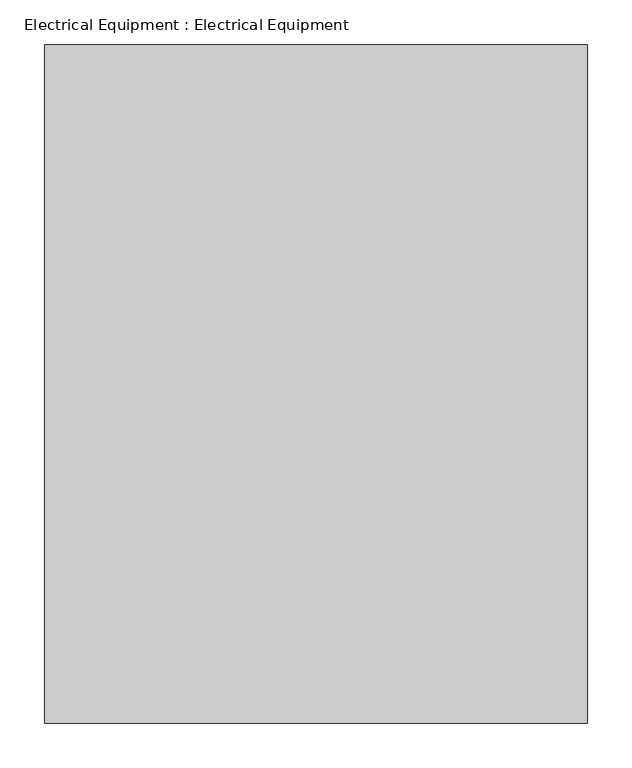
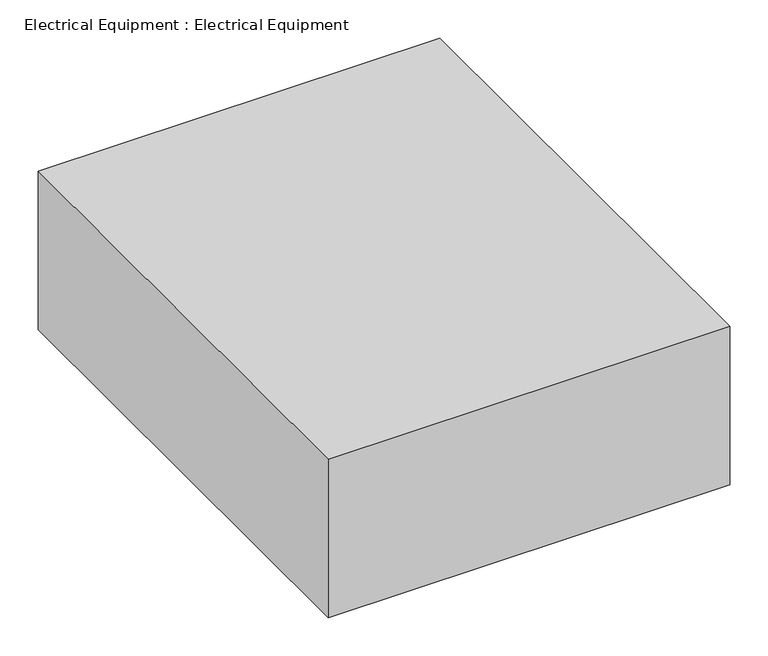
"""IFC4 building model written with IfcOpenShell, lengths in millimetres: proxy geometry, Electrical Equipment : Electrical Equipment."""

from ifc_helpers import new_model, si_unit, origin, origin_with_axes, place, context, project, spatial, polyline, outline, extrude, source, transform, mapped, element, save


def electrical_equipment_electrical_equipment_f90e0472(model_context):
    return source(origin(), model_context, "Body", "SweptSolid", [
        extrude(outline(polyline([(304.8, 381.0), (304.8, -381.0), (-304.8, -381.0), (-304.8, 381.0), (304.8, 381.0)])), origin_with_axes(), (0.0, 0.0, 1.0), 254.0),
    ])


if __name__ == "__main__":
    model = new_model("IFC4")
    model_context = context("Model", 3, world=origin())
    ifc_project = project(units=[si_unit("LENGTHUNIT", "METRE", prefix="MILLI")], contexts=[model_context])
    site = spatial("IfcSite", under=ifc_project)
    building = spatial("IfcBuilding", under=site)
    placement = place(None, origin())
    electrical_equipment_electrical_equipment_shape = electrical_equipment_electrical_equipment_f90e0472(model_context)
    element("IfcBuildingElementProxy", 1, Name="Electrical Equipment : Electrical Equipment", ObjectType="Electrical Equipment : Electrical Equipment", at=placement, inside=building, context=model_context, shape_type="MappedRepresentation", body=[
        mapped(electrical_equipment_electrical_equipment_shape, transform((0.0, 0.0, 0.0), x_axis=(1.0, 0.0, 0.0), y_axis=(0.0, 1.0, 0.0), z_axis=(0.0, 0.0, 1.0))),
    ])
    save(model, "model.ifc")
